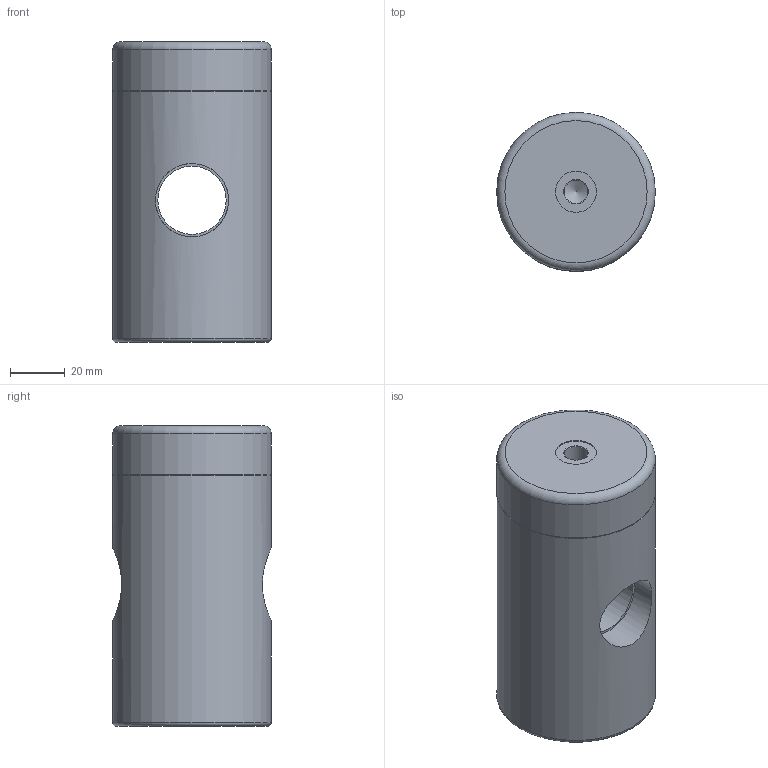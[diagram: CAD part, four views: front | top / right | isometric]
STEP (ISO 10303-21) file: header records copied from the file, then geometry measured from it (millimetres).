
FILE_DESCRIPTION(('STEP AP242'),'1');
FILE_NAME('V.5025_S Feststellpatrone.stp','2026-04-23T09:33:31',(' '),(' '),'Spatial InterOp 3D',' ',' ');
FILE_SCHEMA(('AP242_MANAGED_MODEL_BASED_3D_ENGINEERING_MIM_LF {1 0 10303 442 1 1 4}'));
Length unit declared in the file: millimetre
Products named in the file (1): V.5025_S Feststellpatrone
Bounding box: 58 x 58 x 110 mm (x, y, z)
Volume: 260122.9 mm3; surface area: 28713.7 mm2
Topology: 1 solids, 1 shells, 19 faces, 36 edges, 22 vertices
Faces by surface type: cylinder 8, plane 5, cone 4, torus 2
Full cylindrical faces by diameter (mm): 8.566 x2, 15 x1, 25 x1, 26.8 x2, 58 x2
Entity records: 825 total; most frequent: CARTESIAN_POINT 255, DIRECTION 74, EDGE_LOOP 38, ORIENTED_EDGE 38, AXIS2_PLACEMENT_3D 37, FACE_OUTER_BOUND 29, STYLED_ITEM 20, PRESENTATION_STYLE_ASSIGNMENT 20
